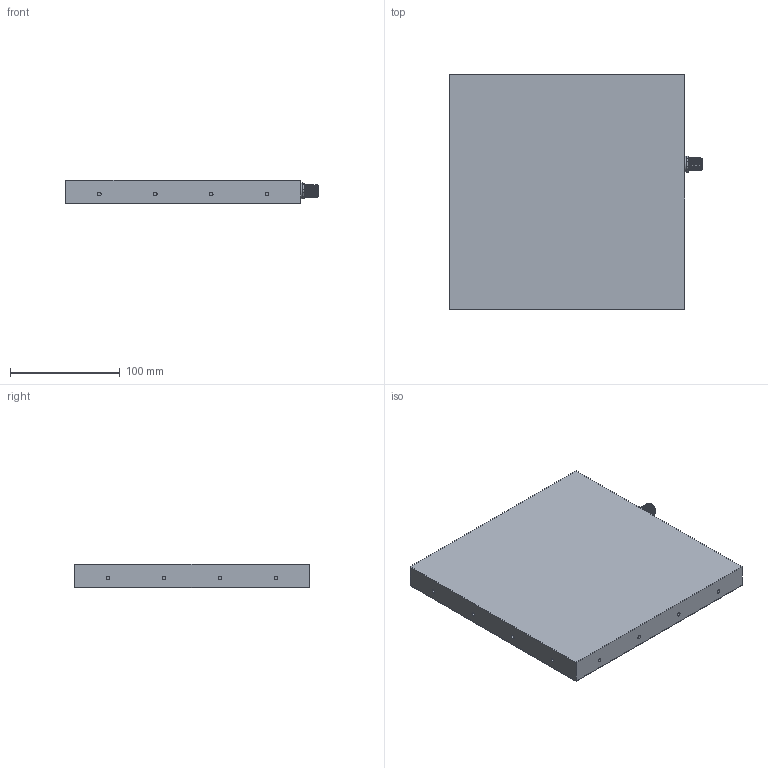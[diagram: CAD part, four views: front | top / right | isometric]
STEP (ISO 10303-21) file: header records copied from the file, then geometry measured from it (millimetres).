
FILE_DESCRIPTION (( 'STEP AP214' ), '1' );
FILE_NAME ('CSBACKII-xxxx-xxx_CLIENT2020.STEP', '2022-04-01T09:18:55', ( '' ), ( '' ), 'SwSTEP 2.0', 'SolidWorks 2020', '' );
FILE_SCHEMA (( 'AUTOMOTIVE_DESIGN' ));
Length unit declared in the file: millimetre
Products named in the file (1): CSBACKII-xxxx-xxx_CLIENT2020
Bounding box: 230 x 214 x 21.06 mm (x, y, z)
Volume: 965158.9 mm3; surface area: 111593.4 mm2
Topology: 1 solids, 2 shells, 340 faces, 843 edges, 554 vertices
Faces by surface type: plane 176, bspline 83, cylinder 73, torus 8
Entity records: 15634 total; most frequent: CARTESIAN_POINT 8067, ORIENTED_EDGE 1686, DIRECTION 1299, EDGE_CURVE 843, VERTEX_POINT 554, VECTOR 487, LINE 487, AXIS2_PLACEMENT_3D 406
